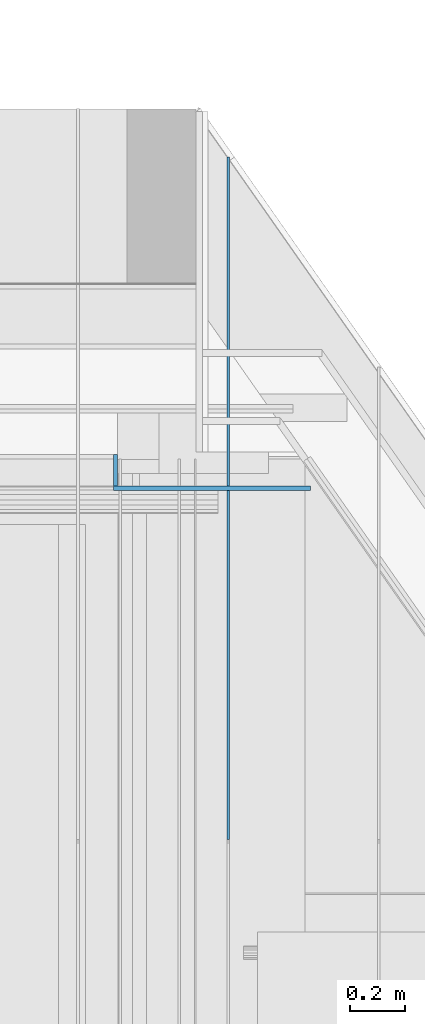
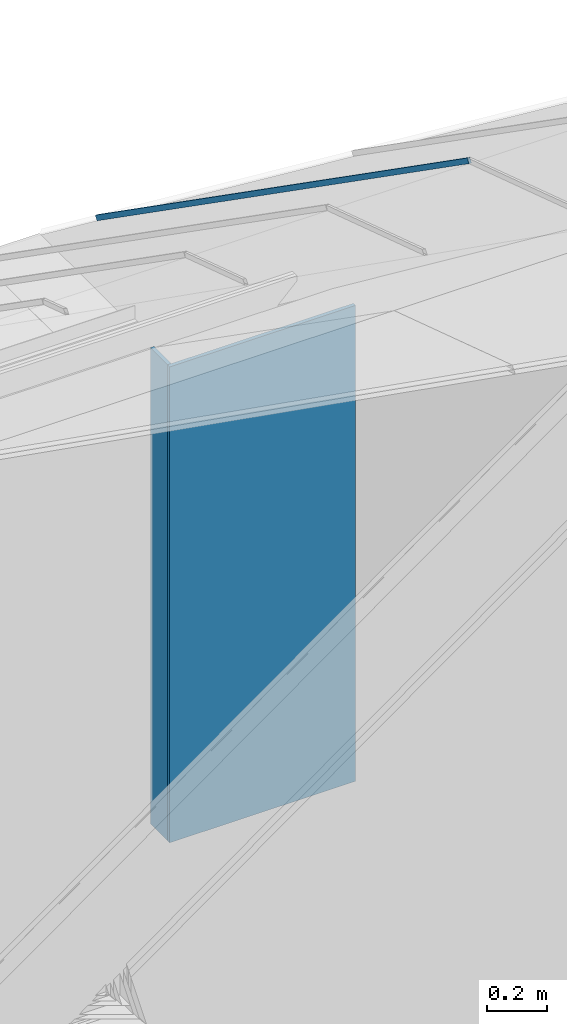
# One storey, part 297 of 583: 3 slabs.
"""IFC2X3 building model written with IfcOpenShell, lengths in metres."""

from ifc_helpers import new_model, entity, si_unit, converted_unit, derived_unit, money_unit, direction, frame, origin_with_axes, place, context, subcontext, project, spatial, faceted_brep, material, type_object, element, save


model = new_model("IFC2X3")

# Units and contexts
model_context = context("Model", 3, precision=1e-05, world=origin_with_axes(), true_north=direction((0.0, 1.0)))
body_context = subcontext(model_context, "Body", "Model", "MODEL_VIEW", scale=1.0)
ifc_project = project(units=[si_unit("LENGTHUNIT", "METRE"), si_unit("AREAUNIT", "SQUARE_METRE"), si_unit("VOLUMEUNIT", "CUBIC_METRE"), si_unit("ABSORBEDDOSEUNIT", "GRAY"), si_unit("AMOUNTOFSUBSTANCEUNIT", "MOLE"), si_unit("DOSEEQUIVALENTUNIT", "SIEVERT"), si_unit("ELECTRICCAPACITANCEUNIT", "FARAD"), si_unit("ELECTRICCHARGEUNIT", "COULOMB"), si_unit("ELECTRICCONDUCTANCEUNIT", "SIEMENS"), si_unit("ELECTRICCURRENTUNIT", "AMPERE"), si_unit("ELECTRICRESISTANCEUNIT", "OHM"), si_unit("ELECTRICVOLTAGEUNIT", "VOLT"), si_unit("ENERGYUNIT", "JOULE"), si_unit("FORCEUNIT", "NEWTON"), si_unit("FREQUENCYUNIT", "HERTZ"), si_unit("ILLUMINANCEUNIT", "LUX"), si_unit("INDUCTANCEUNIT", "HENRY"), si_unit("LUMINOUSFLUXUNIT", "LUMEN"), si_unit("LUMINOUSINTENSITYUNIT", "CANDELA"), si_unit("MAGNETICFLUXDENSITYUNIT", "TESLA"), si_unit("MAGNETICFLUXUNIT", "WEBER"), si_unit("MASSUNIT", "GRAM"), converted_unit("PLANEANGLEUNIT", "degree", entity("IfcReal", 0.0174532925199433), si_unit("PLANEANGLEUNIT", "RADIAN"), dimensions=[0, 0, 0, 0, 0, 0, 0]), si_unit("POWERUNIT", "WATT"), si_unit("PRESSUREUNIT", "PASCAL"), si_unit("RADIOACTIVITYUNIT", "BECQUEREL"), si_unit("SOLIDANGLEUNIT", "STERADIAN"), si_unit("THERMODYNAMICTEMPERATUREUNIT", "KELVIN"), si_unit("TIMEUNIT", "SECOND"), derived_unit("ACCELERATIONUNIT", [(si_unit("LENGTHUNIT", "METRE"), 1), (si_unit("TIMEUNIT", "SECOND"), -2)]), derived_unit("ANGULARVELOCITYUNIT", [(converted_unit("PLANEANGLEUNIT", "degree", entity("IfcReal", 0.0174532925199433), si_unit("PLANEANGLEUNIT", "RADIAN"), dimensions=[0, 0, 0, 0, 0, 0, 0]), 1), (si_unit("TIMEUNIT", "SECOND"), -1)]), derived_unit("CURVATUREUNIT", [(converted_unit("PLANEANGLEUNIT", "degree", entity("IfcReal", 0.0174532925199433), si_unit("PLANEANGLEUNIT", "RADIAN"), dimensions=[0, 0, 0, 0, 0, 0, 0]), 1), (si_unit("LENGTHUNIT", "METRE"), -1)]), derived_unit("DYNAMICVISCOSITYUNIT", [(si_unit("PRESSUREUNIT", "PASCAL"), 1), (si_unit("TIMEUNIT", "SECOND"), 1)]), derived_unit("HEATFLUXDENSITYUNIT", [(si_unit("POWERUNIT", "WATT"), 1), (si_unit("LENGTHUNIT", "METRE"), -2)]), derived_unit("HEATINGVALUEUNIT", [(si_unit("ENERGYUNIT", "JOULE"), 1), (si_unit("MASSUNIT", "GRAM"), -1)]), derived_unit("INTEGERCOUNTRATEUNIT", [(si_unit("TIMEUNIT", "SECOND"), -1)]), derived_unit("IONCONCENTRATIONUNIT", [(si_unit("MASSUNIT", "GRAM"), 1), (si_unit("VOLUMEUNIT", "CUBIC_METRE"), -1)]), derived_unit("ISOTHERMALMOISTURECAPACITYUNIT", [(si_unit("VOLUMEUNIT", "CUBIC_METRE"), 1), (si_unit("MASSUNIT", "GRAM"), -1)]), derived_unit("KINEMATICVISCOSITYUNIT", [(si_unit("AREAUNIT", "SQUARE_METRE"), 1), (si_unit("TIMEUNIT", "SECOND"), -1)]), derived_unit("LINEARFORCEUNIT", [(si_unit("FORCEUNIT", "NEWTON"), 1), (si_unit("LENGTHUNIT", "METRE"), -1)]), derived_unit("LINEARMOMENTUNIT", [(si_unit("FORCEUNIT", "NEWTON"), 1), (si_unit("LENGTHUNIT", "METRE"), -1)]), derived_unit("LINEARSTIFFNESSUNIT", [(si_unit("FORCEUNIT", "NEWTON"), 1), (si_unit("LENGTHUNIT", "METRE"), -1)]), derived_unit("LINEARVELOCITYUNIT", [(si_unit("LENGTHUNIT", "METRE"), 1), (si_unit("TIMEUNIT", "SECOND"), -1)]), derived_unit("LUMINOUSINTENSITYDISTRIBUTIONUNIT", [(si_unit("LUMINOUSINTENSITYUNIT", "CANDELA"), 1), (si_unit("LUMINOUSFLUXUNIT", "LUMEN"), -1)]), derived_unit("MASSDENSITYUNIT", [(si_unit("MASSUNIT", "GRAM"), 1), (si_unit("VOLUMEUNIT", "CUBIC_METRE"), -1)]), derived_unit("MASSFLOWRATEUNIT", [(si_unit("MASSUNIT", "GRAM"), 1), (si_unit("TIMEUNIT", "SECOND"), -1)]), derived_unit("MASSPERLENGTHUNIT", [(si_unit("MASSUNIT", "GRAM"), 1), (si_unit("LENGTHUNIT", "METRE"), -1)]), derived_unit("MODULUSOFELASTICITYUNIT", [(si_unit("FORCEUNIT", "NEWTON"), 1), (si_unit("AREAUNIT", "SQUARE_METRE"), -1)]), derived_unit("MODULUSOFLINEARSUBGRADEREACTIONUNIT", [(si_unit("FORCEUNIT", "NEWTON"), 1), (si_unit("LENGTHUNIT", "METRE"), -2)]), derived_unit("MODULUSOFROTATIONALSUBGRADEREACTIONUNIT", [(si_unit("FORCEUNIT", "NEWTON"), 1), (si_unit("LENGTHUNIT", "METRE"), 1)]), derived_unit("MODULUSOFSUBGRADEREACTIONUNIT", [(si_unit("FORCEUNIT", "NEWTON"), 1), (si_unit("VOLUMEUNIT", "CUBIC_METRE"), -1)]), derived_unit("MOISTUREDIFFUSIVITYUNIT", [(si_unit("VOLUMEUNIT", "CUBIC_METRE"), 1), (si_unit("TIMEUNIT", "SECOND"), -1)]), derived_unit("MOLECULARWEIGHTUNIT", [(si_unit("MASSUNIT", "GRAM"), 1), (si_unit("AMOUNTOFSUBSTANCEUNIT", "MOLE"), -1)]), derived_unit("PLANARFORCEUNIT", [(si_unit("FORCEUNIT", "NEWTON"), 1), (si_unit("LENGTHUNIT", "METRE"), -2)]), derived_unit("ROTATIONALFREQUENCYUNIT", [(si_unit("TIMEUNIT", "SECOND"), -1)]), derived_unit("ROTATIONALMASSUNIT", [(si_unit("MASSUNIT", "GRAM"), 1), (si_unit("LENGTHUNIT", "METRE"), 2)]), derived_unit("ROTATIONALSTIFFNESSUNIT", [(si_unit("FORCEUNIT", "NEWTON"), 1), (si_unit("LENGTHUNIT", "METRE"), 1), (converted_unit("PLANEANGLEUNIT", "degree", entity("IfcReal", 0.0174532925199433), si_unit("PLANEANGLEUNIT", "RADIAN"), dimensions=[0, 0, 0, 0, 0, 0, 0]), -1)]), derived_unit("SECTIONAREAINTEGRALUNIT", [(si_unit("LENGTHUNIT", "METRE"), 5)]), derived_unit("SECTIONMODULUSUNIT", [(si_unit("LENGTHUNIT", "METRE"), 3)]), derived_unit("SHEARMODULUSUNIT", [(si_unit("FORCEUNIT", "NEWTON"), 1), (si_unit("AREAUNIT", "SQUARE_METRE"), -1)]), derived_unit("SOUNDPOWERUNIT", [(si_unit("ENERGYUNIT", "JOULE"), 1), (si_unit("TIMEUNIT", "SECOND"), -1)]), derived_unit("SPECIFICHEATCAPACITYUNIT", [(si_unit("FORCEUNIT", "NEWTON"), 1), (si_unit("MASSUNIT", "GRAM"), -1), (si_unit("THERMODYNAMICTEMPERATUREUNIT", "KELVIN"), -1)]), derived_unit("TEMPERATUREGRADIENTUNIT", [(si_unit("THERMODYNAMICTEMPERATUREUNIT", "KELVIN"), 1), (si_unit("LENGTHUNIT", "METRE"), -1)]), derived_unit("THERMALADMITTANCEUNIT", [(si_unit("POWERUNIT", "WATT"), 1), (si_unit("AREAUNIT", "SQUARE_METRE"), -1), (si_unit("THERMODYNAMICTEMPERATUREUNIT", "KELVIN"), -1)]), derived_unit("THERMALCONDUCTANCEUNIT", [(si_unit("POWERUNIT", "WATT"), 1), (si_unit("LENGTHUNIT", "METRE"), -1), (si_unit("THERMODYNAMICTEMPERATUREUNIT", "KELVIN"), -1)]), derived_unit("THERMALEXPANSIONCOEFFICIENTUNIT", [(si_unit("THERMODYNAMICTEMPERATUREUNIT", "KELVIN"), -1)]), derived_unit("THERMALRESISTANCEUNIT", [(si_unit("AREAUNIT", "SQUARE_METRE"), 1), (si_unit("POWERUNIT", "WATT"), -1)]), derived_unit("THERMALTRANSMITTANCEUNIT", [(si_unit("POWERUNIT", "WATT"), 1), (si_unit("AREAUNIT", "SQUARE_METRE"), -1), (si_unit("THERMODYNAMICTEMPERATUREUNIT", "KELVIN"), -1)]), derived_unit("TORQUEUNIT", [(si_unit("FORCEUNIT", "NEWTON"), 1), (si_unit("LENGTHUNIT", "METRE"), 1)]), derived_unit("VAPORPERMEABILITYUNIT", [(si_unit("MASSUNIT", "GRAM"), 1), (si_unit("TIMEUNIT", "SECOND"), -1)]), derived_unit("VOLUMETRICFLOWRATEUNIT", [(si_unit("VOLUMEUNIT", "CUBIC_METRE"), 1), (si_unit("TIMEUNIT", "SECOND"), -1)]), derived_unit("WARPINGCONSTANTUNIT", [(si_unit("LENGTHUNIT", "METRE"), 6)]), derived_unit("WARPINGMOMENTUNIT", [(si_unit("FORCEUNIT", "NEWTON"), 1), (si_unit("LENGTHUNIT", "METRE"), 2)]), money_unit("GBP")], contexts=[model_context])

# Site, building, storey
site_placement = place(None, origin_with_axes())
site = spatial("IfcSite", under=ifc_project, at=site_placement, Name="Site", CompositionType="ELEMENT")
building_placement = place(site_placement, origin_with_axes())
building = spatial("IfcBuilding", under=site, at=building_placement, Name="Building01", CompositionType="ELEMENT")
storey_placement = place(building_placement, frame((0.0, 0.0, 20.78), z_axis=(0.0, 0.0, 1.0), x_axis=(1.0, 0.0, 0.0)))
storey = spatial("IfcBuildingStorey", under=building, at=storey_placement, Name="RL", CompositionType="ELEMENT", Elevation=20.78)

# Slabs
ifc_material_1 = material(Name="A_BSUK_CeilingSoffitFinishes_Suspended")
slab_type = type_object("IfcSlabType", Name="A-FloorsSlabs A_BSUK_Slabs", PredefinedType="FLOOR")
placement = place(storey_placement, frame((0.0, 0.0, -20.78), z_axis=(0.0, 0.0, 1.0), x_axis=(1.0, 0.0, 0.0)))
element("IfcSlab", 1, at=placement, inside=storey, type_object=slab_type, material=ifc_material_1, Name="A-FloorsSlabs A_BSUK_Slabs", ObjectType="CompoundSlabLeaf", context=body_context, shape_type="Brep", body=[
    faceted_brep([(12.117674, 20.065, 22.239976), (12.117674, 20.08, 22.239976), (12.117674, 20.08, 24.181874), (12.117674, 20.065, 24.181874), (11.399939, 20.065, 22.239976), (11.399939, 20.08, 22.239976), (11.399939, 20.065, 24.181874), (11.399939, 20.08, 24.181874)], [[[0, 1, 2, 3]], [[4, 5, 1, 0]], [[6, 7, 5, 4]], [[3, 2, 7, 6]], [[1, 5, 7, 2]], [[3, 6, 4, 0]]]),
])
element("IfcSlab", 2, at=placement, inside=storey, type_object=slab_type, material=ifc_material_1, Name="A-FloorsSlabs A_BSUK_Slabs", ObjectType="CompoundSlabLeaf", context=body_context, shape_type="Brep", body=[
    faceted_brep([(11.399939, 20.08, 24.181874), (11.414939, 20.08, 24.181874), (11.414939, 20.195, 24.181874), (11.399939, 20.195, 24.181874), (11.399939, 20.08, 22.239976), (11.414939, 20.08, 22.239976), (11.399939, 20.195, 22.239976), (11.414939, 20.195, 22.239976)], [[[0, 1, 2, 3]], [[4, 5, 1, 0]], [[6, 7, 5, 4]], [[3, 2, 7, 6]], [[1, 5, 7, 2]], [[3, 6, 4, 0]]]),
])
ifc_material_2 = material(Name="A_BSUK_Roofs")
slab_3_placement = place(storey_placement, frame((11.813453, 18.780461, 4.86574), z_axis=(0.0, 1.0, 0.0), x_axis=(1.0, 0.0, 0.0)))
element("IfcSlab", 3, at=slab_3_placement, inside=storey, type_object=slab_type, material=ifc_material_2, Name="A-FloorsSlabs A_BSUK_Slabs", ObjectType="A-FloorsSlabs A_BSUK_Slabs", context=body_context, shape_type="Brep", body=[
    faceted_brep([(0.0, 0.0, 0.0), (0.0, -0.016383, 0.011471), (0.0, 1.725072, 2.498526), (0.0, 1.741455, 2.487055), (0.01, 0.0, 0.0), (0.01, -0.016383, 0.011471), (0.01, 1.741455, 2.487055), (0.01, 1.725072, 2.498526)], [[[0, 1, 2, 3]], [[4, 5, 1, 0]], [[6, 7, 5, 4]], [[3, 2, 7, 6]], [[1, 5, 7, 2]], [[3, 6, 4, 0]]]),
])

save(model, "model.ifc")
